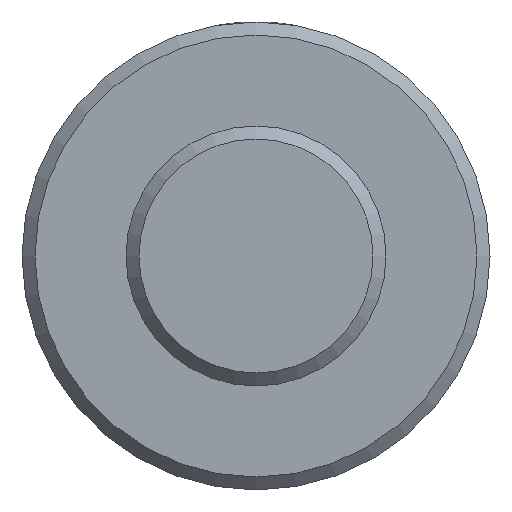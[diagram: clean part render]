
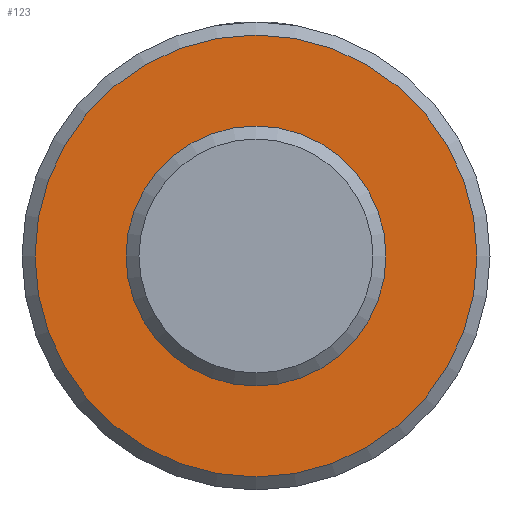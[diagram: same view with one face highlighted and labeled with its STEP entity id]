
A CAD part, left-side view. The second image highlights one B-rep face of the part: STEP entity #123.
In plain terms, the highlighted planar face has unit normal (-1, 0, 0).
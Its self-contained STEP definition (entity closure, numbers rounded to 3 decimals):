
#114=PLANE('',#351);
#123=ADVANCED_FACE('',(#181,#182),#114,.F.);
#181=FACE_BOUND('',#202,.T.);
#182=FACE_BOUND('',#203,.T.);
#202=EDGE_LOOP('',(#237));
#203=EDGE_LOOP('',(#238));
#237=ORIENTED_EDGE('',*,*,#315,.T.);
#238=ORIENTED_EDGE('',*,*,#313,.T.);
#291=VERTEX_POINT('',#592);
#293=VERTEX_POINT('',#597);
#313=EDGE_CURVE('',#291,#291,#333,.T.);
#315=EDGE_CURVE('',#293,#293,#335,.T.);
#333=CIRCLE('',#347,10.);
#335=CIRCLE('',#350,17.);
#347=AXIS2_PLACEMENT_3D('',#591,#382,#383);
#350=AXIS2_PLACEMENT_3D('',#596,#388,#389);
#351=AXIS2_PLACEMENT_3D('',#598,#390,#391);
#382=DIRECTION('',(1.,0.,0.));
#383=DIRECTION('',(0.,0.,-1.));
#388=DIRECTION('',(-1.,0.,0.));
#389=DIRECTION('',(0.,0.,-1.));
#390=DIRECTION('',(1.,0.,0.));
#391=DIRECTION('',(0.,0.,-1.));
#591=CARTESIAN_POINT('',(-112.5,0.,0.));
#592=CARTESIAN_POINT('',(-112.5,0.,-10.));
#596=CARTESIAN_POINT('',(-112.5,0.,0.));
#597=CARTESIAN_POINT('',(-112.5,0.,-17.));
#598=CARTESIAN_POINT('',(-112.5,0.,0.));
